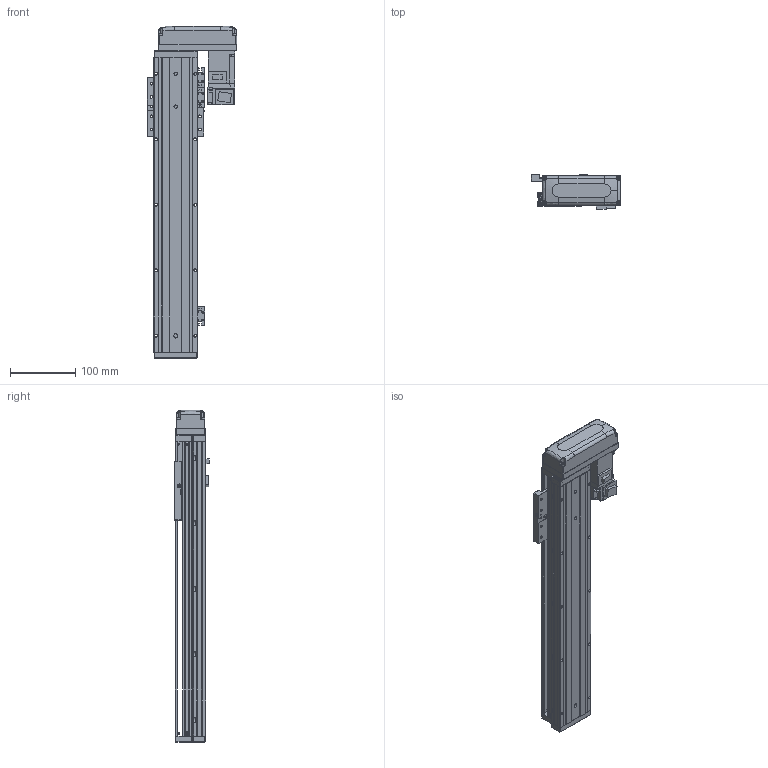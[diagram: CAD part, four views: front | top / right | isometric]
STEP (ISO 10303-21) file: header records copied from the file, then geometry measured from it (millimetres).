
FILE_DESCRIPTION (( 'STEP AP203' ), '1' );
FILE_NAME ('KTHAL60-300-BL-M10-C4L.step', '2022-03-19T08:37:44', ( '微软用户' ), ( '微软中国' ), 'SwSTEP 2.0', 'SolidWorks 2020', '' );
FILE_SCHEMA (( 'CONFIG_CONTROL_DESIGN' ));
Length unit declared in the file: millimetre
Products named in the file (18): CTHA60-021; CTHA60-033; KTHA60-004; GBT 70.1-M4×16; GBT 70.1-M3×15; KTHA60-005; GBT77-2000M3-3; KTHAL60-300-BL-M10-C4L; GB¨uT 70.2-M3¡Á5_M3¡Á6; KTHA60-001_450; GBT 70.1-M3℅6; GBT 70.3-M3℅6; CTHA60-016; EE_SX911P_R; HG-KR13（三菱）; CTHA60-017; CTHA60-015-2_CTHA60-015-2; KTHLA60-002
Assembly tree (51 placements, depth 2):
  KTHAL60-300-BL-M10-C4L
    KTHA60-001_450
    KTHLA60-002
    KTHA60-004
    KTHA60-005
    GB¨uT 70.2-M3¡Á5_M3¡Á6  x5
    GBT 70.3-M3℅6  x4
    EE_SX911P_R  x3
    CTHA60-017  x3
    CTHA60-021  x2
    GBT 70.1-M4×16  x10
    GBT77-2000M3-3  x6
    GBT 70.1-M3℅6  x6
    CTHA60-016
    HG-KR13（三菱）
    CTHA60-015-2_CTHA60-015-2
    CTHA60-033
    GBT 70.1-M3×15  x4
Bounding box: 137 x 53.3 x 507 mm (x, y, z)
Volume: 1207156.6 mm3; surface area: 297290.6 mm2
Topology: 54 solids, 54 shells, 2255 faces, 5331 edges, 3269 vertices
Faces by surface type: plane 1288, cylinder 547, cone 282, torus 98, bspline 26, sphere 14
Entity records: 38701 total; most frequent: CARTESIAN_POINT 7336, DIRECTION 6023, ORIENTED_EDGE 5806, EDGE_CURVE 2903, AXIS2_PLACEMENT_3D 2023, LINE 1977, VECTOR 1977, VERTEX_POINT 1818
